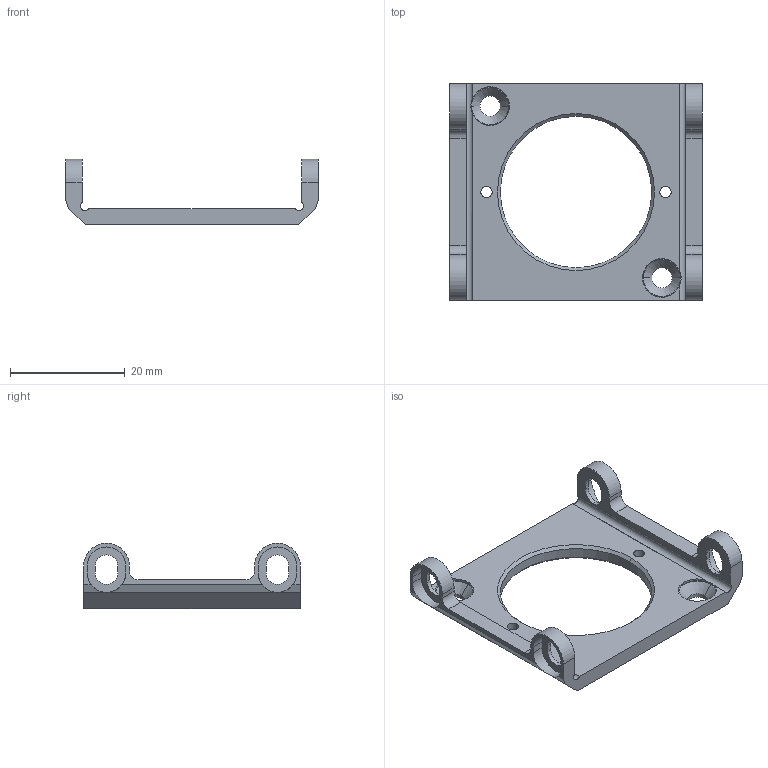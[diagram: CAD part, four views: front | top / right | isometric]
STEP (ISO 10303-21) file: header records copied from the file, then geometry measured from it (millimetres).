
FILE_DESCRIPTION((''),'2;1');
FILE_NAME('M2-CX','2020-10-17T',('Administrator'),(''),'CREO PARAMETRIC BY PTC INC, 2017300','CREO PARAMETRIC BY PTC INC, 2017300','');
FILE_SCHEMA(('CONFIG_CONTROL_DESIGN'));
Length unit declared in the file: millimetre
Products named in the file (1): M2-CX
Bounding box: 44.15 x 37.85 x 11.43 mm (x, y, z)
Volume: 3079.8 mm3; surface area: 3702.2 mm2
Topology: 1 solids, 1 shells, 100 faces, 300 edges, 202 vertices
Faces by surface type: cylinder 48, plane 44, cone 8
Entity records: 3532 total; most frequent: CARTESIAN_POINT 670, ORIENTED_EDGE 600, DIRECTION 598, EDGE_CURVE 300, AXIS2_PLACEMENT_3D 218, VERTEX_POINT 202, VECTOR 162, LINE 162
